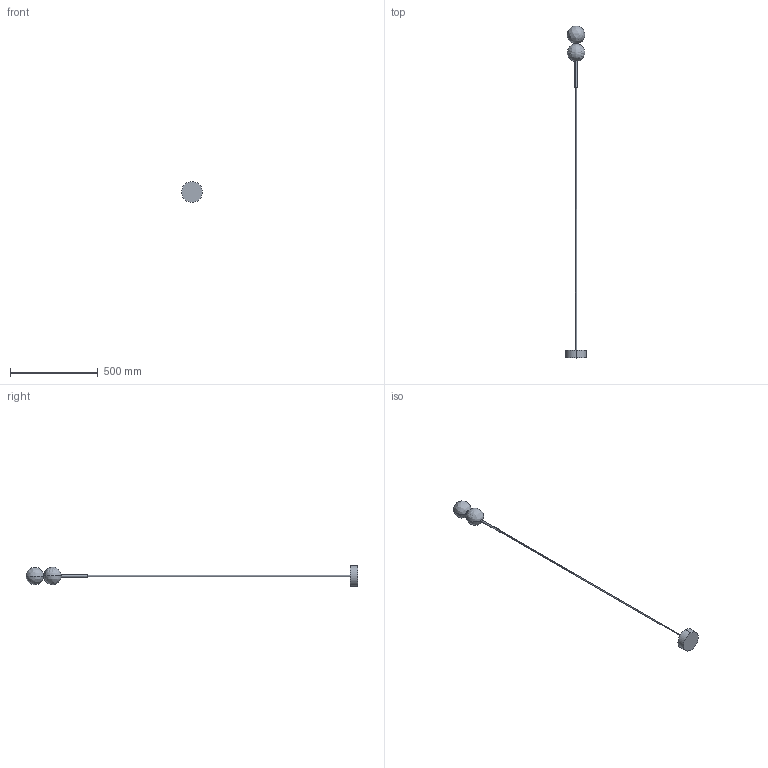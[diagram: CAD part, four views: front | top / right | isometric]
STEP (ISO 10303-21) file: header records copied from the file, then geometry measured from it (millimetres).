
FILE_DESCRIPTION (( 'STEP AP214' ), '1' );
FILE_NAME ('DALT_CU1280.STEP', '2026-06-05T07:42:31', ( '' ), ( '' ), 'SwSTEP 2.0', 'SolidWorks 2023', '' );
FILE_SCHEMA (( 'AUTOMOTIVE_DESIGN' ));
Length unit declared in the file: inch
Products named in the file (1): DALT_CU1280
Bounding box: 119.89 x 1896.96 x 119.89 mm (x, y, z)
Volume: 2085630.1 mm3; surface area: 167831.8 mm2
Topology: 5 solids, 5 shells, 31 faces, 72 edges, 44 vertices
Faces by surface type: bspline 27, cylinder 2, plane 2
Entity records: 1253 total; most frequent: CARTESIAN_POINT 763, ORIENTED_EDGE 128, EDGE_CURVE 64, VERTEX_POINT 44, EDGE_LOOP 32, ADVANCED_FACE 31, FACE_OUTER_BOUND 31, B_SPLINE_CURVE_WITH_KNOTS 22
